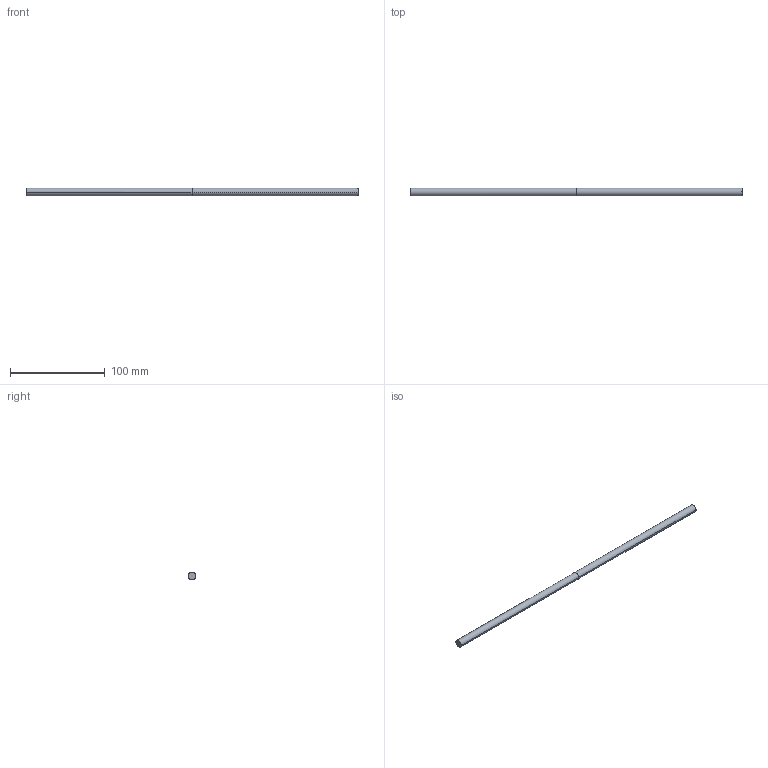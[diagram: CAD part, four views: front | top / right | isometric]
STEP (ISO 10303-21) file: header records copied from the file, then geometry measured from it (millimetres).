
FILE_DESCRIPTION(/* description */ (''),/* implementation_level */ '2;1');
FILE_NAME(/* name */ 'GUIALI~3',/* time_stamp */ '2019-04-01T21:29:45-03:00',/* author */ (''),/* organization */ (''),/* preprocessor_version */ 'ST-DEVELOPER v16.5',/* originating_system */ '',/* authorisation */ '');
FILE_SCHEMA (('AUTOMOTIVE_DESIGN'));
Length unit declared in the file: millimetre
Products named in the file (1): Document
Bounding box: 350 x 8 x 7.99 mm (x, y, z)
Volume: 17646.7 mm3; surface area: 8909.7 mm2
Topology: 1 solids, 1 shells, 6 faces, 10 edges, 6 vertices
Faces by surface type: bspline 4, plane 2
Entity records: 173 total; most frequent: CARTESIAN_POINT 88, ORIENTED_EDGE 20, EDGE_CURVE 10, ADVANCED_FACE 6, FACE_OUTER_BOUND 6, EDGE_LOOP 6, VERTEX_POINT 6, DIRECTION 6
